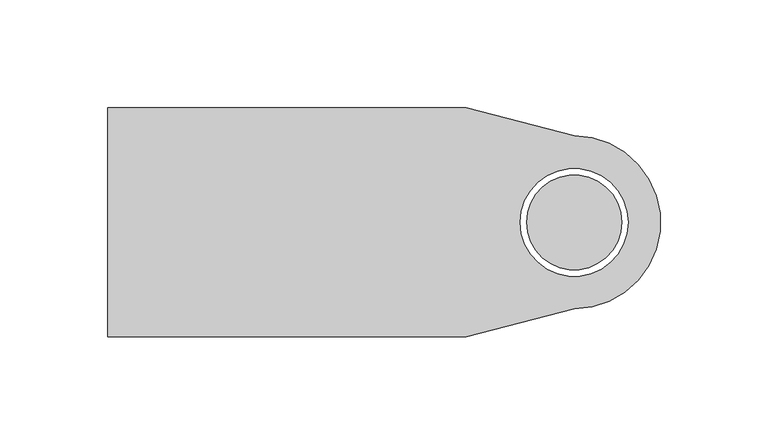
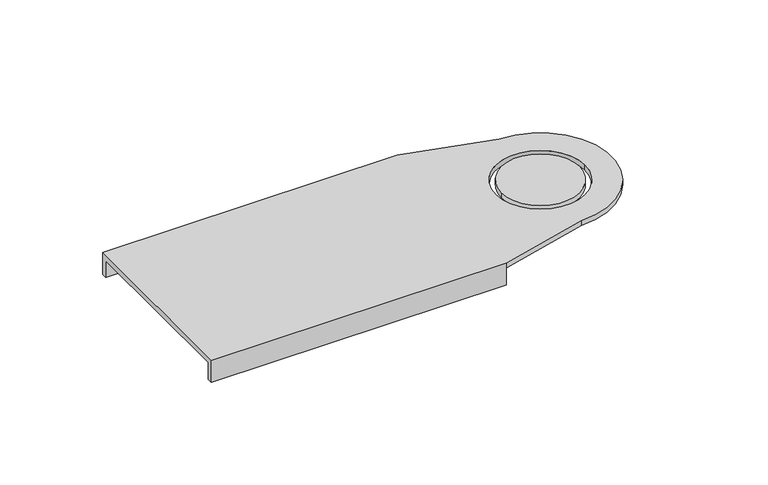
"""IFC4 building model written with IfcOpenShell, lengths in millimetres: cable carrier fitting geometry, BAKS_LDLS_BEND_Articulated connector for LLDS_LGSU : LGSUT_H100."""

from ifc_helpers import new_model, si_unit, frame, origin, place, context, project, spatial, polyline, circle_curve, source, transform, mapped, element, save
from ifc_brep_helpers import plane_surface, cylinder_surface, revolved_surface, advanced_brep


def cable_carrier_fitting_7d25663b(model_context):
    return source(origin(), model_context, "Body", "AdvancedBrep", [
        advanced_brep(
        [(-216.0, -53.0, 3.0), (-50.0, -53.0, 3.0), (0.0, -40.0, 3.0), (0.0, 40.0, 3.0), (-50.0, 53.0, 3.0), (-216.0, 53.0, 3.0), (25.0, 0.0, 3.0), (-25.0, 0.0, 3.0), (-50.0, 53.0, 0.0), (0.0, 40.0, 0.0), (0.0, -40.0, 0.0), (-50.0, -53.0, 0.0), (-50.0, -50.0, 0.0), (-216.0, -50.0, 0.0), (-216.0, 50.0, 0.0), (-50.0, 50.0, 0.0), (-25.0, 0.0, 0.0), (25.0, 0.0, 0.0), (-216.0, -53.0, -10.0), (-50.0, -53.0, -10.0), (-50.0, 53.0, -10.0), (-216.0, 53.0, -10.0), (-216.0, 50.0, -10.0), (-216.0, -50.0, -10.0), (-50.0, 50.0, -10.0), (-50.0, -50.0, -10.0)],
        [
            (0, 1),
            (1, 2),
            (2, 3, circle_curve(frame((0.0, 0.0, 3.0), z_axis=(0.0, 0.0, 1.0), x_axis=(-1.0, 0.0, 0.0)), 40.0)),
            (3, 4),
            (4, 5),
            (5, 0),
            (6, 7, circle_curve(frame((0.0, 0.0, 3.0), z_axis=(0.0, 0.0, -1.0), x_axis=(-1.0, 0.0, 0.0)), 25.0)),
            (7, 6, circle_curve(frame((0.0, 0.0, 3.0), z_axis=(0.0, 0.0, -1.0), x_axis=(-1.0, 0.0, 0.0)), 25.0)),
            (8, 9),
            (9, 10, circle_curve(frame((0.0, 0.0, 0.0), z_axis=(0.0, 0.0, -1.0), x_axis=(-1.0, 0.0, 0.0)), 40.0)),
            (10, 11),
            (11, 12),
            (12, 13),
            (13, 14),
            (14, 15),
            (15, 8),
            (16, 17, circle_curve(frame((0.0, 0.0, 0.0), z_axis=(0.0, 0.0, 1.0), x_axis=(-1.0, 0.0, 0.0)), 25.0)),
            (17, 16, circle_curve(frame((0.0, 0.0, 0.0), z_axis=(0.0, 0.0, 1.0), x_axis=(-1.0, 0.0, 0.0)), 25.0)),
            (0, 18),
            (18, 19),
            (19, 11),
            (11, 1),
            (4, 8),
            (8, 20),
            (20, 21),
            (21, 5),
            (21, 22),
            (22, 14),
            (13, 23),
            (23, 18),
            (6, 17),
            (16, 7),
            (10, 2),
            (9, 3),
            (20, 24),
            (24, 22),
            (24, 15),
            (23, 25),
            (25, 19),
            (25, 12),
        ],
        [
            plane_surface(frame((-50.0, -53.0, 3.0), z_axis=(0.0, 0.0, 1.0), x_axis=(1.0, 0.0, 0.0))),
            plane_surface(frame((-50.0, -53.0, 0.0), z_axis=(0.0, 0.0, -1.0), x_axis=(-1.0, 0.0, 0.0))),
            plane_surface(frame((-216.0, -53.0, 3.0), z_axis=(0.0, -1.0, 0.0), x_axis=(0.0, 0.0, -1.0))),
            plane_surface(frame((-50.0, 53.0, 3.0), z_axis=(0.0, 1.0, 0.0), x_axis=(0.0, 0.0, -1.0))),
            plane_surface(frame((-216.0, 53.0, 3.0), z_axis=(-1.0, 0.0, 0.0), x_axis=(0.0, 0.0, -1.0))),
            revolved_surface(polyline([(-25.0, 0.0, 3.0), (-25.0, 0.0, 0.0)]), (0.0, 0.0, 0.0), (0.0, 0.0, 1.0)),
            plane_surface(frame((-50.0, -53.0, 3.0), z_axis=(0.2516338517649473, -0.9678225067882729, 0.0), x_axis=(0.0, 0.0, -1.0))),
            cylinder_surface(frame((0.0, 0.0, 0.0), z_axis=(0.0, 0.0, 1.0), x_axis=(-1.0, 0.0, 0.0)), 40.0),
            plane_surface(frame((0.0, 40.0, 3.0), z_axis=(0.25163385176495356, 0.9678225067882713, 0.0), x_axis=(0.0, 0.0, -1.0))),
            plane_surface(frame((-50.0, 50.0, -10.0), z_axis=(0.0, 0.0, -1.0), x_axis=(-1.0, 0.0, 0.0))),
            plane_surface(frame((-216.0, 50.0, 0.0), z_axis=(0.0, -1.0, 0.0), x_axis=(0.0, 0.0, -1.0))),
            plane_surface(frame((-50.0, 50.0, 0.0), z_axis=(1.0, 0.0, 0.0), x_axis=(0.0, 0.0, -1.0))),
            plane_surface(frame((-50.0, -53.0, -10.0), z_axis=(0.0, 0.0, -1.0), x_axis=(-1.0, 0.0, 0.0))),
            plane_surface(frame((-50.0, -53.0, 0.0), z_axis=(1.0, 0.0, 0.0), x_axis=(0.0, 0.0, -1.0))),
            plane_surface(frame((-50.0, -50.0, 0.0), z_axis=(0.0, 1.0, 0.0), x_axis=(0.0, 0.0, -1.0))),
        ],
        [
            (0, [[1, 2, 3, 4, 5, 6], [7, 8]]),
            (1, [[9, 10, 11, 12, 13, 14, 15, 16], [17, 18]]),
            (2, [[-1, 19, 20, 21, 22]]),
            (3, [[-5, 23, 24, 25, 26]]),
            (4, [[-19, -6, -26, 27, 28, -14, 29, 30]]),
            (5, [[31, -17, 32, -7]]),
            (5, [[-31, -8, -32, -18]]),
            (6, [[-2, -22, -11, 33]]),
            (7, [[-3, -33, -10, 34]]),
            (8, [[-4, -34, -9, -23]]),
            (9, [[-27, -25, 35, 36]]),
            (10, [[-36, 37, -15, -28]]),
            (11, [[-35, -24, -16, -37]]),
            (12, [[-30, 38, 39, -20]]),
            (13, [[-39, 40, -12, -21]]),
            (14, [[-38, -29, -13, -40]]),
        ],
    ),
        advanced_brep(
        [(22.0, 0.0, 3.0), (-22.0, 0.0, 3.0), (-22.0, 0.0, 0.0), (22.0, 0.0, 0.0)],
        [
            (0, 1, circle_curve(frame((0.0, 0.0, 3.0), z_axis=(0.0, 0.0, 1.0), x_axis=(-1.0, 0.0, 0.0)), 22.0)),
            (1, 0, circle_curve(frame((0.0, 0.0, 3.0), z_axis=(0.0, 0.0, 1.0), x_axis=(-1.0, 0.0, 0.0)), 22.0)),
            (2, 3, circle_curve(frame((0.0, 0.0, 0.0), z_axis=(0.0, 0.0, -1.0), x_axis=(-1.0, 0.0, 0.0)), 22.0)),
            (3, 2, circle_curve(frame((0.0, 0.0, 0.0), z_axis=(0.0, 0.0, -1.0), x_axis=(-1.0, 0.0, 0.0)), 22.0)),
            (0, 3),
            (2, 1),
        ],
        [
            plane_surface(frame((-50.0, -53.0, 3.0), z_axis=(0.0, 0.0, 1.0), x_axis=(1.0, 0.0, 0.0))),
            plane_surface(frame((-50.0, -53.0, 0.0), z_axis=(0.0, 0.0, -1.0), x_axis=(-1.0, 0.0, 0.0))),
            cylinder_surface(frame((0.0, 0.0, 0.0), z_axis=(0.0, 0.0, -1.0), x_axis=(-1.0, 0.0, 0.0)), 22.0),
        ],
        [
            (0, [[1, 2]]),
            (1, [[3, 4]]),
            (2, [[5, -3, 6, -1]]),
            (2, [[-5, -2, -6, -4]]),
        ],
    ),
    ])


if __name__ == "__main__":
    model = new_model("IFC4")
    model_context = context("Model", 3, world=origin())
    ifc_project = project(units=[si_unit("LENGTHUNIT", "METRE", prefix="MILLI")], contexts=[model_context])
    site = spatial("IfcSite", under=ifc_project)
    building = spatial("IfcBuilding", under=site)
    placement = place(None, origin())
    cable_carrier_fitting_shape = cable_carrier_fitting_7d25663b(model_context)
    element("IfcCableCarrierFitting", 1, ObjectType="BAKS_LDLS_BEND_Articulated connector for LLDS_LGSU : LGSUT_H100", at=placement, inside=building, context=model_context, shape_type="MappedRepresentation", body=[
        mapped(cable_carrier_fitting_shape, transform((0.0, 0.0, 0.0), x_axis=(1.0, 0.0, 0.0), y_axis=(0.0, 1.0, 0.0), z_axis=(0.0, 0.0, 1.0))),
    ])
    save(model, "model.ifc")
